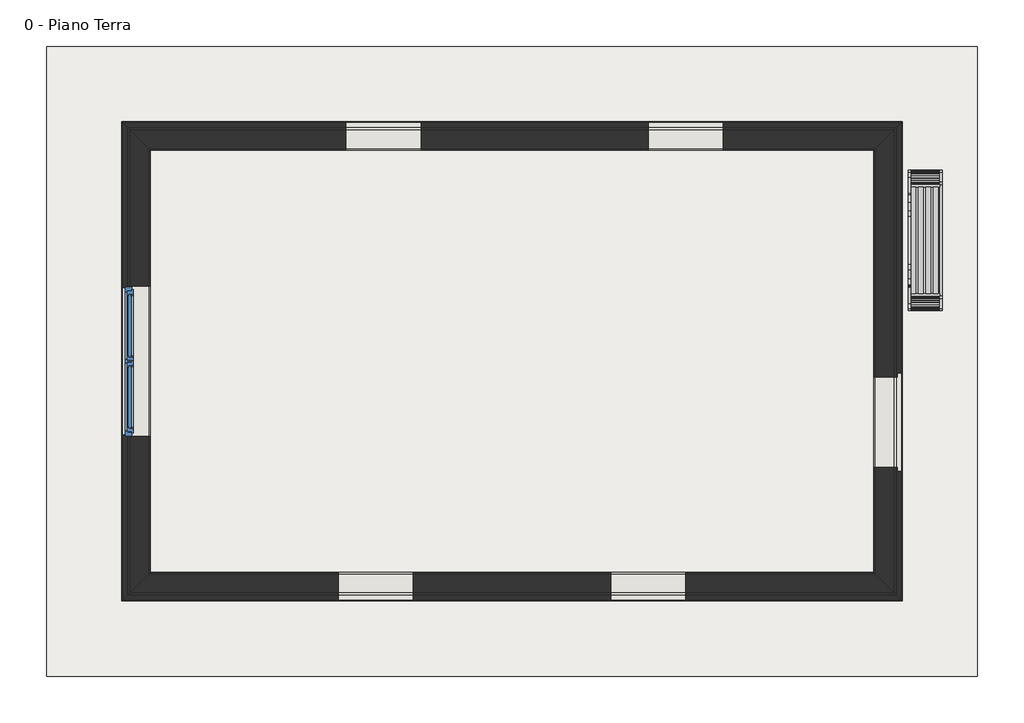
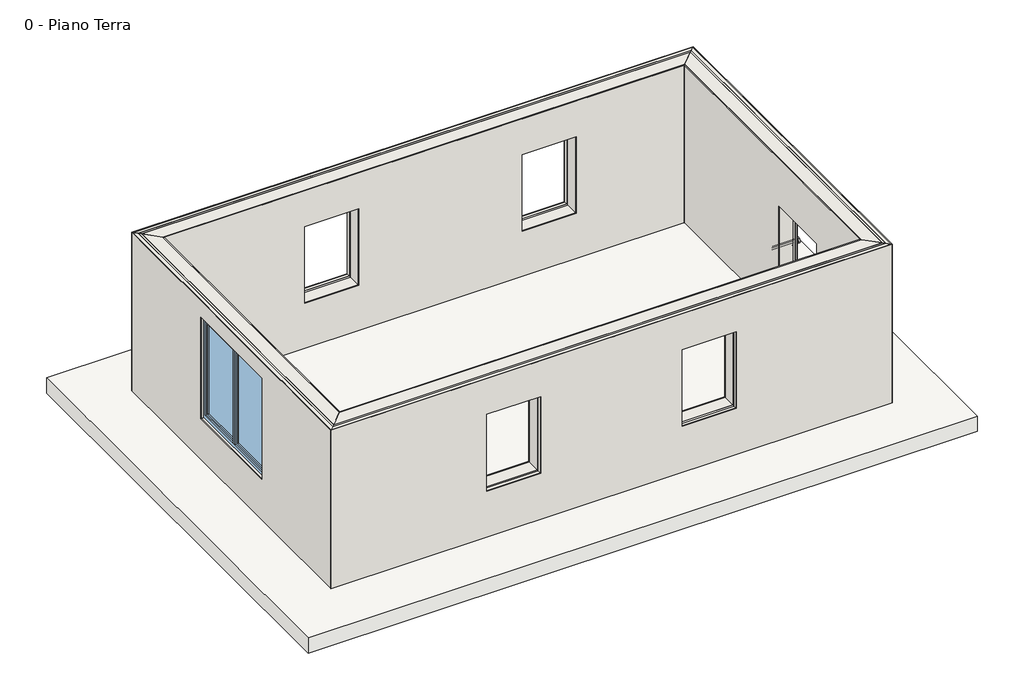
# One storey, incomplete: 4 walls, 2 slabs, 1 furniture element, 1 window.
"""IFC4 building model written with IfcOpenShell, lengths in millimetres."""

from ifc_helpers import new_model, si_unit, frame, origin, origin_with_axes, place, context, project, spatial, polyline, outline, extrude, faceted_brep, transform, mapped, element, save
from components import panchina_1_panchina_1_e30cd0fb, type_1_1d15f25d

model = new_model("IFC4")

# Units and contexts
model_context = context("Model", 3, world=origin())
ifc_project = project(units=[si_unit("LENGTHUNIT", "METRE", prefix="MILLI")], contexts=[model_context])

# Site, building, storey
site = spatial("IfcSite", under=ifc_project)
building = spatial("IfcBuilding", under=site)
storey = spatial("IfcBuildingStorey", under=building, Name="0 - Piano Terra", Elevation=0.0)

# Furniture
placement = place(None, origin())
panchina_1_panchina_1_shape = panchina_1_panchina_1_e30cd0fb(model_context)
element("IfcFurniture", 1, ObjectType="Panchina (1) : Panchina (1)", at=placement, inside=storey, context=model_context, shape_type="MappedRepresentation", body=[
    mapped(panchina_1_panchina_1_shape, transform((7054.6934329, 871.7316161, 0.0), x_axis=(0.0, 1.0, 0.0), y_axis=(-1.0, 0.0, 0.0), z_axis=(0.0, 0.0, 1.0))),
])

# Slabs
element("IfcSlab", 2, ObjectType="Latero Cementizio - 30 cm", at=placement, inside=storey, context=model_context, shape_type="SweptSolid", body=[
    extrude(outline(polyline([(7554.6934329, 3451.7316161), (7554.6934329, -4928.2683839), (-4825.3065671, -4928.2683839), (-4825.3065671, 3451.7316161), (7554.6934329, 3451.7316161)])), frame((0.0, 0.0, -300.0), z_axis=(0.0, 0.0, 1.0), x_axis=(1.0, 0.0, 0.0)), (0.0, 0.0, 1.0), 300.0),
])
element("IfcSlab", 3, ObjectType="Piastrelle (2 cm)", at=placement, inside=storey, context=model_context, shape_type="SweptSolid", body=[
    extrude(outline(polyline([(6174.6934329, 2071.7316161), (6174.6934329, -3548.2683839), (-3445.3065671, -3548.2683839), (-3445.3065671, 2071.7316161), (6174.6934329, 2071.7316161)])), origin_with_axes(), (0.0, 0.0, 1.0), 20.0),
])

# Walls
element("IfcWall", 4, ObjectType="Tamponamento Esterno - 38 cm", at=placement, inside=storey, context=model_context, shape_type="Brep", body=[
    faceted_brep([(6189.6934329, 2086.7316161, 0.0), (-3460.3065671, 2086.7316161, 0.0), (-3460.3065671, 2086.7316161, 3100.0), (6189.6934329, 2086.7316161, 3100.0), (4174.6934329, 2086.7316161, 900.0), (4174.6934329, 2086.7316161, 2400.0), (3174.6934329, 2086.7316161, 2400.0), (3174.6934329, 2086.7316161, 900.0), (-845.0439726, 2086.7316161, 2400.0), (-845.0439726, 2086.7316161, 900.0), (154.9560274, 2086.7316161, 900.0), (154.9560274, 2086.7316161, 2400.0), (6174.6934329, 2071.7316161, 0.0), (-3445.3065671, 2071.7316161, 0.0), (-3445.3065671, 2071.7316161, 3100.0), (6174.6934329, 2071.7316161, 3100.0), (4174.6934329, 2071.7316161, 2400.0), (4174.6934329, 2071.7316161, 900.0), (3174.6934329, 2071.7316161, 900.0), (3174.6934329, 2071.7316161, 2400.0), (-845.0439726, 2071.7316161, 900.0), (-845.0439726, 2071.7316161, 2400.0), (154.9560274, 2071.7316161, 2400.0), (154.9560274, 2071.7316161, 900.0)], [[[0, 1, 2, 3], [4, 5, 6, 7], [8, 9, 10, 11]], [[12, 13, 1, 0]], [[14, 15, 3, 2]], [[15, 12, 0, 3]], [[13, 14, 2, 1]], [[13, 12, 15, 14], [16, 17, 18, 19], [20, 21, 22, 23]], [[21, 20, 9, 8]], [[22, 21, 8, 11]], [[23, 22, 11, 10]], [[20, 23, 10, 9]], [[17, 16, 5, 4]], [[16, 19, 6, 5]], [[19, 18, 7, 6]], [[18, 17, 4, 7]]]),
    faceted_brep([(-3460.3065671, 2086.7316161, 0.0), (6189.6934329, 2086.7316161, 0.0), (6189.6934329, 2086.7316161, 3100.0), (-3460.3065671, 2086.7316161, 3100.0), (4174.6934329, 2086.7316161, 2400.0), (4174.6934329, 2086.7316161, 900.0), (3174.6934329, 2086.7316161, 900.0), (3174.6934329, 2086.7316161, 2400.0), (-845.0439726, 2086.7316161, 900.0), (-845.0439726, 2086.7316161, 2400.0), (154.9560274, 2086.7316161, 2400.0), (154.9560274, 2086.7316161, 900.0), (6439.6934329, 2336.7316161, 0.0), (-3710.3065671, 2336.7316161, 0.0), (-3710.3065671, 2336.7316161, 3100.0), (6439.6934329, 2336.7316161, 3100.0), (4174.6934329, 2336.7316161, 900.0), (4174.6934329, 2336.7316161, 2400.0), (3174.6934329, 2336.7316161, 2400.0), (3174.6934329, 2336.7316161, 900.0), (-845.0439726, 2336.7316161, 2400.0), (-845.0439726, 2336.7316161, 900.0), (154.9560274, 2336.7316161, 900.0), (154.9560274, 2336.7316161, 2400.0)], [[[0, 1, 2, 3], [4, 5, 6, 7], [8, 9, 10, 11]], [[12, 13, 14, 15], [16, 17, 18, 19], [20, 21, 22, 23]], [[0, 13, 12, 1]], [[2, 15, 14, 3]], [[1, 12, 15, 2]], [[13, 0, 3, 14]], [[8, 21, 20, 9]], [[9, 20, 23, 10]], [[10, 23, 22, 11]], [[21, 8, 11, 22]], [[16, 5, 4, 17]], [[17, 4, 7, 18]], [[18, 7, 6, 19]], [[5, 16, 19, 6]]]),
    faceted_brep([(6539.6934329, 2436.7316161, 0.0), (-3810.3065671, 2436.7316161, 0.0), (-3810.3065671, 2436.7316161, 3100.0), (6539.6934329, 2436.7316161, 3100.0), (4174.6934329, 2436.7316161, 900.0), (4174.6934329, 2436.7316161, 2400.0), (3174.6934329, 2436.7316161, 2400.0), (3174.6934329, 2436.7316161, 900.0), (-845.0439726, 2436.7316161, 2400.0), (-845.0439726, 2436.7316161, 900.0), (154.9560274, 2436.7316161, 900.0), (154.9560274, 2436.7316161, 2400.0), (-3750.3065671, 2376.7316161, 0.0), (6479.6934329, 2376.7316161, 0.0), (6479.6934329, 2376.7316161, 3100.0), (-3750.3065671, 2376.7316161, 3100.0), (4174.6934329, 2376.7316161, 2400.0), (4174.6934329, 2376.7316161, 900.0), (3174.6934329, 2376.7316161, 900.0), (3174.6934329, 2376.7316161, 2400.0), (-845.0439726, 2376.7316161, 900.0), (-845.0439726, 2376.7316161, 2400.0), (154.9560274, 2376.7316161, 2400.0), (154.9560274, 2376.7316161, 900.0)], [[[0, 1, 2, 3], [4, 5, 6, 7], [8, 9, 10, 11]], [[12, 13, 14, 15], [16, 17, 18, 19], [20, 21, 22, 23]], [[12, 1, 0, 13]], [[14, 3, 2, 15]], [[13, 0, 3, 14]], [[1, 12, 15, 2]], [[20, 9, 8, 21]], [[21, 8, 11, 22]], [[22, 11, 10, 23]], [[9, 20, 23, 10]], [[4, 17, 16, 5]], [[5, 16, 19, 6]], [[6, 19, 18, 7]], [[17, 4, 7, 18]]]),
    faceted_brep([(-3810.3065671, 2436.7316161, 0.0), (6539.6934329, 2436.7316161, 0.0), (6539.6934329, 2436.7316161, 3100.0), (-3810.3065671, 2436.7316161, 3100.0), (4174.6934329, 2436.7316161, 2400.0), (4174.6934329, 2436.7316161, 900.0), (3174.6934329, 2436.7316161, 900.0), (3174.6934329, 2436.7316161, 2400.0), (-845.0439726, 2436.7316161, 900.0), (-845.0439726, 2436.7316161, 2400.0), (154.9560274, 2436.7316161, 2400.0), (154.9560274, 2436.7316161, 900.0), (-3825.3065671, 2451.7316161, 0.0), (6554.6934329, 2451.7316161, 0.0), (6554.6934329, 2451.7316161, 3100.0), (-3825.3065671, 2451.7316161, 3100.0), (4174.6934329, 2451.7316161, 900.0), (4174.6934329, 2451.7316161, 2400.0), (3174.6934329, 2451.7316161, 2400.0), (3174.6934329, 2451.7316161, 900.0), (-845.0439726, 2451.7316161, 2400.0), (-845.0439726, 2451.7316161, 900.0), (154.9560274, 2451.7316161, 900.0), (154.9560274, 2451.7316161, 2400.0)], [[[0, 1, 2, 3], [4, 5, 6, 7], [8, 9, 10, 11]], [[12, 13, 1, 0]], [[14, 15, 3, 2]], [[13, 14, 2, 1]], [[15, 12, 0, 3]], [[13, 12, 15, 14], [16, 17, 18, 19], [20, 21, 22, 23]], [[21, 20, 9, 8]], [[20, 23, 10, 9]], [[23, 22, 11, 10]], [[22, 21, 8, 11]], [[17, 16, 5, 4]], [[18, 17, 4, 7]], [[19, 18, 7, 6]], [[16, 19, 6, 5]]]),
    faceted_brep([(6479.6934329, 2376.7316161, 0.0), (-3750.3065671, 2376.7316161, 0.0), (-3750.3065671, 2376.7316161, 3100.0), (6479.6934329, 2376.7316161, 3100.0), (4174.6934329, 2376.7316161, 900.0), (4174.6934329, 2376.7316161, 2400.0), (3174.6934329, 2376.7316161, 2400.0), (3174.6934329, 2376.7316161, 900.0), (-845.0439726, 2376.7316161, 2400.0), (-845.0439726, 2376.7316161, 900.0), (154.9560274, 2376.7316161, 900.0), (154.9560274, 2376.7316161, 2400.0), (-3710.3065671, 2336.7316161, 0.0), (6439.6934329, 2336.7316161, 0.0), (6439.6934329, 2336.7316161, 3100.0), (-3710.3065671, 2336.7316161, 3100.0), (4174.6934329, 2336.7316161, 2400.0), (4174.6934329, 2336.7316161, 900.0), (3174.6934329, 2336.7316161, 900.0), (3174.6934329, 2336.7316161, 2400.0), (-845.0439726, 2336.7316161, 900.0), (-845.0439726, 2336.7316161, 2400.0), (154.9560274, 2336.7316161, 2400.0), (154.9560274, 2336.7316161, 900.0)], [[[0, 1, 2, 3], [4, 5, 6, 7], [8, 9, 10, 11]], [[12, 13, 14, 15], [16, 17, 18, 19], [20, 21, 22, 23]], [[12, 1, 0, 13]], [[14, 3, 2, 15]], [[13, 0, 3, 14]], [[1, 12, 15, 2]], [[20, 9, 8, 21]], [[21, 8, 11, 22]], [[22, 11, 10, 23]], [[9, 20, 23, 10]], [[4, 17, 16, 5]], [[5, 16, 19, 6]], [[6, 19, 18, 7]], [[17, 4, 7, 18]]]),
])
element("IfcWall", 5, ObjectType="Tamponamento Esterno - 38 cm", at=placement, inside=storey, context=model_context, shape_type="Brep", body=[
    faceted_brep([(6189.6934329, -3563.2683839, 0.0), (6189.6934329, 2086.7316161, 0.0), (6189.6934329, 2086.7316161, 3100.0), (6189.6934329, -3563.2683839, 3100.0), (6189.6934329, -2148.2683839, 2170.0), (6189.6934329, -948.2683839, 2170.0), (6189.6934329, -948.2683839, 20.0), (6189.6934329, -2148.2683839, 20.0), (6174.6934329, -3548.2683839, 0.0), (6174.6934329, 2071.7316161, 0.0), (6174.6934329, 2071.7316161, 3100.0), (6174.6934329, -3548.2683839, 3100.0), (6174.6934329, -2148.2683839, 2170.0), (6174.6934329, -948.2683839, 2170.0), (6174.6934329, -2148.2683839, 20.0), (6174.6934329, -948.2683839, 20.0)], [[[0, 1, 2, 3], [4, 5, 6, 7]], [[8, 9, 1, 0]], [[10, 11, 3, 2]], [[9, 10, 2, 1]], [[11, 8, 0, 3]], [[12, 13, 5, 4]], [[14, 12, 4, 7]], [[13, 15, 6, 5]], [[9, 8, 11, 10], [13, 12, 14, 15]], [[15, 14, 7, 6]]]),
    faceted_brep([(6189.6934329, 2086.7316161, 0.0), (6189.6934329, -3563.2683839, 0.0), (6189.6934329, -3563.2683839, 3100.0), (6189.6934329, 2086.7316161, 3100.0), (6189.6934329, -948.2683839, 2170.0), (6189.6934329, -2148.2683839, 2170.0), (6189.6934329, -2148.2683839, 20.0), (6189.6934329, -948.2683839, 20.0), (6439.6934329, -3813.2683839, 0.0), (6439.6934329, 2336.7316161, 0.0), (6439.6934329, 2336.7316161, 3100.0), (6439.6934329, -3813.2683839, 3100.0), (6439.6934329, -2148.2683839, 2170.0), (6439.6934329, -948.2683839, 2170.0), (6439.6934329, -948.2683839, 20.0), (6439.6934329, -2148.2683839, 20.0)], [[[0, 1, 2, 3], [4, 5, 6, 7]], [[8, 9, 10, 11], [12, 13, 14, 15]], [[0, 9, 8, 1]], [[2, 11, 10, 3]], [[9, 0, 3, 10]], [[1, 8, 11, 2]], [[4, 13, 12, 5]], [[5, 12, 15, 6]], [[13, 4, 7, 14]], [[6, 15, 14, 7]]]),
    faceted_brep([(6539.6934329, -3913.2683839, 0.0), (6539.6934329, 2436.7316161, 0.0), (6539.6934329, 2436.7316161, 3100.0), (6539.6934329, -3913.2683839, 3100.0), (6539.6934329, -891.5476185, 20.0), (6539.6934329, -2204.9891493, 20.0), (6539.6934329, -2204.9891493, 2226.7207654), (6539.6934329, -891.5476185, 2226.7207654), (6479.6934329, 2376.7316161, 0.0), (6479.6934329, -3853.2683839, 0.0), (6479.6934329, -3853.2683839, 3100.0), (6479.6934329, 2376.7316161, 3100.0), (6479.6934329, -948.2683839, 2170.0), (6479.6934329, -2148.2683839, 2170.0), (6479.6934329, -2148.2683839, 20.0), (6479.6934329, -948.2683839, 20.0), (6486.6933037, -948.2683839, 2170.0), (6486.6933037, -2148.2683839, 2170.0), (6486.6933037, -2148.2683839, 20.0), (6486.6933037, -948.2683839, 20.0), (6486.6933037, -2204.9891493, 20.0), (6486.6933037, -2204.9891493, 2226.7207654), (6486.6933037, -891.5476185, 2226.7207654), (6486.6933037, -891.5476185, 20.0)], [[[0, 1, 2, 3], [4, 5, 6, 7]], [[8, 9, 10, 11], [12, 13, 14, 15]], [[8, 1, 0, 9]], [[10, 3, 2, 11]], [[1, 8, 11, 2]], [[9, 0, 3, 10]], [[16, 17, 13, 12]], [[17, 18, 14, 13]], [[19, 16, 12, 15]], [[20, 21, 6, 5]], [[21, 22, 7, 6]], [[22, 23, 4, 7]], [[17, 16, 19, 23, 22, 21, 20, 18]], [[18, 20, 5, 4, 23, 19, 15, 14]]]),
    faceted_brep([(6539.6934329, 2436.7316161, 0.0), (6539.6934329, -3913.2683839, 0.0), (6539.6934329, -3913.2683839, 3100.0), (6539.6934329, 2436.7316161, 3100.0), (6539.6934329, -2204.9891493, 20.0), (6539.6934329, -891.5476185, 20.0), (6539.6934329, -891.5476185, 2226.7207654), (6539.6934329, -2204.9891493, 2226.7207654), (6554.6934329, 2451.7316161, 0.0), (6554.6934329, -3928.2683839, 0.0), (6554.6934329, -3928.2683839, 3100.0), (6554.6934329, 2451.7316161, 3100.0), (6554.6934329, -891.5476185, 20.0), (6554.6934329, -2204.9891493, 20.0), (6554.6934329, -2204.9891493, 2226.7207654), (6554.6934329, -891.5476185, 2226.7207654)], [[[0, 1, 2, 3], [4, 5, 6, 7]], [[8, 9, 1, 0]], [[10, 11, 3, 2]], [[11, 8, 0, 3]], [[9, 10, 2, 1]], [[9, 8, 11, 10], [12, 13, 14, 15]], [[14, 13, 4, 7]], [[15, 14, 7, 6]], [[12, 15, 6, 5]], [[13, 12, 5, 4]]]),
    faceted_brep([(6479.6934329, -3853.2683839, 0.0), (6479.6934329, 2376.7316161, 0.0), (6479.6934329, 2376.7316161, 3100.0), (6479.6934329, -3853.2683839, 3100.0), (6479.6934329, -2148.2683839, 2170.0), (6479.6934329, -948.2683839, 2170.0), (6479.6934329, -948.2683839, 20.0), (6479.6934329, -2148.2683839, 20.0), (6439.6934329, 2336.7316161, 0.0), (6439.6934329, -3813.2683839, 0.0), (6439.6934329, -3813.2683839, 3100.0), (6439.6934329, 2336.7316161, 3100.0), (6439.6934329, -948.2683839, 2170.0), (6439.6934329, -2148.2683839, 2170.0), (6439.6934329, -2148.2683839, 20.0), (6439.6934329, -948.2683839, 20.0)], [[[0, 1, 2, 3], [4, 5, 6, 7]], [[8, 9, 10, 11], [12, 13, 14, 15]], [[8, 1, 0, 9]], [[10, 3, 2, 11]], [[1, 8, 11, 2]], [[9, 0, 3, 10]], [[12, 5, 4, 13]], [[13, 4, 7, 14]], [[5, 12, 15, 6]], [[14, 7, 6, 15]]]),
])
element("IfcWall", 6, ObjectType="Tamponamento Esterno - 38 cm", at=placement, inside=storey, context=model_context, shape_type="Brep", body=[
    faceted_brep([(-3460.3065671, -3563.2683839, 0.0), (6189.6934329, -3563.2683839, 0.0), (6189.6934329, -3563.2683839, 3100.0), (-3460.3065671, -3563.2683839, 3100.0), (54.6934329, -3563.2683839, 2400.0), (54.6934329, -3563.2683839, 900.0), (-945.3065671, -3563.2683839, 900.0), (-945.3065671, -3563.2683839, 2400.0), (2674.6934329, -3563.2683839, 900.0), (2674.6934329, -3563.2683839, 2400.0), (3674.6934329, -3563.2683839, 2400.0), (3674.6934329, -3563.2683839, 900.0), (-3445.3065671, -3548.2683839, 0.0), (6174.6934329, -3548.2683839, 0.0), (6174.6934329, -3548.2683839, 3100.0), (-3445.3065671, -3548.2683839, 3100.0), (54.6934329, -3548.2683839, 900.0), (54.6934329, -3548.2683839, 2400.0), (-945.3065671, -3548.2683839, 2400.0), (-945.3065671, -3548.2683839, 900.0), (2674.6934329, -3548.2683839, 2400.0), (2674.6934329, -3548.2683839, 900.0), (3674.6934329, -3548.2683839, 900.0), (3674.6934329, -3548.2683839, 2400.0)], [[[0, 1, 2, 3], [4, 5, 6, 7], [8, 9, 10, 11]], [[12, 13, 1, 0]], [[14, 15, 3, 2]], [[13, 14, 2, 1]], [[15, 12, 0, 3]], [[13, 12, 15, 14], [16, 17, 18, 19], [20, 21, 22, 23]], [[21, 20, 9, 8]], [[20, 23, 10, 9]], [[23, 22, 11, 10]], [[22, 21, 8, 11]], [[17, 16, 5, 4]], [[18, 17, 4, 7]], [[19, 18, 7, 6]], [[16, 19, 6, 5]]]),
    faceted_brep([(6189.6934329, -3563.2683839, 0.0), (-3460.3065671, -3563.2683839, 0.0), (-3460.3065671, -3563.2683839, 3100.0), (6189.6934329, -3563.2683839, 3100.0), (54.6934329, -3563.2683839, 900.0), (54.6934329, -3563.2683839, 2400.0), (-945.3065671, -3563.2683839, 2400.0), (-945.3065671, -3563.2683839, 900.0), (2674.6934329, -3563.2683839, 2400.0), (2674.6934329, -3563.2683839, 900.0), (3674.6934329, -3563.2683839, 900.0), (3674.6934329, -3563.2683839, 2400.0), (-3710.3065671, -3813.2683839, 0.0), (6439.6934329, -3813.2683839, 0.0), (6439.6934329, -3813.2683839, 3100.0), (-3710.3065671, -3813.2683839, 3100.0), (54.6934329, -3813.2683839, 2400.0), (54.6934329, -3813.2683839, 900.0), (-945.3065671, -3813.2683839, 900.0), (-945.3065671, -3813.2683839, 2400.0), (2674.6934329, -3813.2683839, 900.0), (2674.6934329, -3813.2683839, 2400.0), (3674.6934329, -3813.2683839, 2400.0), (3674.6934329, -3813.2683839, 900.0)], [[[0, 1, 2, 3], [4, 5, 6, 7], [8, 9, 10, 11]], [[12, 13, 14, 15], [16, 17, 18, 19], [20, 21, 22, 23]], [[0, 13, 12, 1]], [[2, 15, 14, 3]], [[13, 0, 3, 14]], [[1, 12, 15, 2]], [[20, 9, 8, 21]], [[21, 8, 11, 22]], [[22, 11, 10, 23]], [[9, 20, 23, 10]], [[4, 17, 16, 5]], [[5, 16, 19, 6]], [[6, 19, 18, 7]], [[17, 4, 7, 18]]]),
    faceted_brep([(-3810.3065671, -3913.2683839, 0.0), (6539.6934329, -3913.2683839, 0.0), (6539.6934329, -3913.2683839, 3100.0), (-3810.3065671, -3913.2683839, 3100.0), (54.6934329, -3913.2683839, 2400.0), (54.6934329, -3913.2683839, 900.0), (-945.3065671, -3913.2683839, 900.0), (-945.3065671, -3913.2683839, 2400.0), (2674.6934329, -3913.2683839, 900.0), (2674.6934329, -3913.2683839, 2400.0), (3674.6934329, -3913.2683839, 2400.0), (3674.6934329, -3913.2683839, 900.0), (6479.6934329, -3853.2683839, 0.0), (-3750.3065671, -3853.2683839, 0.0), (-3750.3065671, -3853.2683839, 3100.0), (6479.6934329, -3853.2683839, 3100.0), (54.6934329, -3853.2683839, 900.0), (54.6934329, -3853.2683839, 2400.0), (-945.3065671, -3853.2683839, 2400.0), (-945.3065671, -3853.2683839, 900.0), (2674.6934329, -3853.2683839, 2400.0), (2674.6934329, -3853.2683839, 900.0), (3674.6934329, -3853.2683839, 900.0), (3674.6934329, -3853.2683839, 2400.0)], [[[0, 1, 2, 3], [4, 5, 6, 7], [8, 9, 10, 11]], [[12, 13, 14, 15], [16, 17, 18, 19], [20, 21, 22, 23]], [[12, 1, 0, 13]], [[14, 3, 2, 15]], [[1, 12, 15, 2]], [[13, 0, 3, 14]], [[8, 21, 20, 9]], [[9, 20, 23, 10]], [[10, 23, 22, 11]], [[21, 8, 11, 22]], [[16, 5, 4, 17]], [[17, 4, 7, 18]], [[18, 7, 6, 19]], [[5, 16, 19, 6]]]),
    faceted_brep([(6539.6934329, -3913.2683839, 0.0), (-3810.3065671, -3913.2683839, 0.0), (-3810.3065671, -3913.2683839, 3100.0), (6539.6934329, -3913.2683839, 3100.0), (54.6934329, -3913.2683839, 900.0), (54.6934329, -3913.2683839, 2400.0), (-945.3065671, -3913.2683839, 2400.0), (-945.3065671, -3913.2683839, 900.0), (2674.6934329, -3913.2683839, 2400.0), (2674.6934329, -3913.2683839, 900.0), (3674.6934329, -3913.2683839, 900.0), (3674.6934329, -3913.2683839, 2400.0), (6554.6934329, -3928.2683839, 0.0), (-3825.3065671, -3928.2683839, 0.0), (-3825.3065671, -3928.2683839, 3100.0), (6554.6934329, -3928.2683839, 3100.0), (54.6934329, -3928.2683839, 2400.0), (54.6934329, -3928.2683839, 900.0), (-945.3065671, -3928.2683839, 900.0), (-945.3065671, -3928.2683839, 2400.0), (2674.6934329, -3928.2683839, 900.0), (2674.6934329, -3928.2683839, 2400.0), (3674.6934329, -3928.2683839, 2400.0), (3674.6934329, -3928.2683839, 900.0)], [[[0, 1, 2, 3], [4, 5, 6, 7], [8, 9, 10, 11]], [[12, 13, 1, 0]], [[14, 15, 3, 2]], [[15, 12, 0, 3]], [[13, 14, 2, 1]], [[13, 12, 15, 14], [16, 17, 18, 19], [20, 21, 22, 23]], [[21, 20, 9, 8]], [[22, 21, 8, 11]], [[23, 22, 11, 10]], [[20, 23, 10, 9]], [[17, 16, 5, 4]], [[16, 19, 6, 5]], [[19, 18, 7, 6]], [[18, 17, 4, 7]]]),
    faceted_brep([(-3750.3065671, -3853.2683839, 0.0), (6479.6934329, -3853.2683839, 0.0), (6479.6934329, -3853.2683839, 3100.0), (-3750.3065671, -3853.2683839, 3100.0), (54.6934329, -3853.2683839, 2400.0), (54.6934329, -3853.2683839, 900.0), (-945.3065671, -3853.2683839, 900.0), (-945.3065671, -3853.2683839, 2400.0), (2674.6934329, -3853.2683839, 900.0), (2674.6934329, -3853.2683839, 2400.0), (3674.6934329, -3853.2683839, 2400.0), (3674.6934329, -3853.2683839, 900.0), (6439.6934329, -3813.2683839, 0.0), (-3710.3065671, -3813.2683839, 0.0), (-3710.3065671, -3813.2683839, 3100.0), (6439.6934329, -3813.2683839, 3100.0), (54.6934329, -3813.2683839, 900.0), (54.6934329, -3813.2683839, 2400.0), (-945.3065671, -3813.2683839, 2400.0), (-945.3065671, -3813.2683839, 900.0), (2674.6934329, -3813.2683839, 2400.0), (2674.6934329, -3813.2683839, 900.0), (3674.6934329, -3813.2683839, 900.0), (3674.6934329, -3813.2683839, 2400.0)], [[[0, 1, 2, 3], [4, 5, 6, 7], [8, 9, 10, 11]], [[12, 13, 14, 15], [16, 17, 18, 19], [20, 21, 22, 23]], [[12, 1, 0, 13]], [[14, 3, 2, 15]], [[1, 12, 15, 2]], [[13, 0, 3, 14]], [[8, 21, 20, 9]], [[9, 20, 23, 10]], [[10, 23, 22, 11]], [[21, 8, 11, 22]], [[16, 5, 4, 17]], [[17, 4, 7, 18]], [[18, 7, 6, 19]], [[5, 16, 19, 6]]]),
])
element("IfcWall", 7, ObjectType="Tamponamento Esterno - 38 cm", at=placement, inside=storey, context=model_context, shape_type="Brep", body=[
    faceted_brep([(-3460.3065671, 2086.7316161, 0.0), (-3460.3065671, -3563.2683839, 0.0), (-3460.3065671, -3563.2683839, 3100.0), (-3460.3065671, 2086.7316161, 3100.0), (-3460.3065671, 261.7316161, 2800.0), (-3460.3065671, -1738.2683839, 2800.0), (-3460.3065671, -1738.2683839, 800.0), (-3460.3065671, 261.7316161, 800.0), (-3445.3065671, 2071.7316161, 0.0), (-3445.3065671, -3548.2683839, 0.0), (-3445.3065671, -3548.2683839, 3100.0), (-3445.3065671, 2071.7316161, 3100.0), (-3445.3065671, -1738.2683839, 2800.0), (-3445.3065671, 261.7316161, 2800.0), (-3445.3065671, 261.7316161, 800.0), (-3445.3065671, -1738.2683839, 800.0)], [[[0, 1, 2, 3], [4, 5, 6, 7]], [[8, 9, 1, 0]], [[10, 11, 3, 2]], [[11, 8, 0, 3]], [[9, 10, 2, 1]], [[9, 8, 11, 10], [12, 13, 14, 15]], [[13, 12, 5, 4]], [[14, 13, 4, 7]], [[15, 14, 7, 6]], [[12, 15, 6, 5]]]),
    faceted_brep([(-3460.3065671, -3563.2683839, 0.0), (-3460.3065671, 2086.7316161, 0.0), (-3460.3065671, 2086.7316161, 3100.0), (-3460.3065671, -3563.2683839, 3100.0), (-3460.3065671, -1738.2683839, 2800.0), (-3460.3065671, 261.7316161, 2800.0), (-3460.3065671, 261.7316161, 800.0), (-3460.3065671, -1738.2683839, 800.0), (-3710.3065671, 2336.7316161, 0.0), (-3710.3065671, -3813.2683839, 0.0), (-3710.3065671, -3813.2683839, 3100.0), (-3710.3065671, 2336.7316161, 3100.0), (-3710.3065671, 261.7316161, 2800.0), (-3710.3065671, -1738.2683839, 2800.0), (-3710.3065671, -1738.2683839, 800.0), (-3710.3065671, 261.7316161, 800.0)], [[[0, 1, 2, 3], [4, 5, 6, 7]], [[8, 9, 10, 11], [12, 13, 14, 15]], [[0, 9, 8, 1]], [[2, 11, 10, 3]], [[1, 8, 11, 2]], [[9, 0, 3, 10]], [[4, 13, 12, 5]], [[5, 12, 15, 6]], [[6, 15, 14, 7]], [[13, 4, 7, 14]]]),
    faceted_brep([(-3810.3065671, 2436.7316161, 0.0), (-3810.3065671, -3913.2683839, 0.0), (-3810.3065671, -3913.2683839, 3100.0), (-3810.3065671, 2436.7316161, 3100.0), (-3810.3065671, -1718.2683839, 800.0), (-3810.3065671, 241.7316161, 800.0), (-3810.3065671, 241.7316161, 2780.0), (-3810.3065671, -1718.2683839, 2780.0), (-3750.3065671, -3853.2683839, 0.0), (-3750.3065671, 2376.7316161, 0.0), (-3750.3065671, 2376.7316161, 3100.0), (-3750.3065671, -3853.2683839, 3100.0), (-3750.3065671, -1738.2683839, 2800.0), (-3750.3065671, 261.7316161, 2800.0), (-3750.3065671, 261.7316161, 800.0), (-3750.3065671, -1738.2683839, 800.0), (-3775.3065671, -1738.2683839, 2800.0), (-3775.3065671, 261.7316161, 2800.0), (-3775.3065671, 261.7316161, 800.0), (-3775.3065671, -1718.2683839, 800.0), (-3775.3065671, -1738.2683839, 800.0), (-3775.3065671, 241.7316161, 800.0), (-3775.3065671, 241.7316161, 2780.0), (-3775.3065671, -1718.2683839, 2780.0), (-3775.3065671, 241.7316161, 810.0), (-3775.3065671, -1718.2683839, 810.0)], [[[0, 1, 2, 3], [4, 5, 6, 7]], [[8, 9, 10, 11], [12, 13, 14, 15]], [[8, 1, 0, 9]], [[10, 3, 2, 11]], [[9, 0, 3, 10]], [[1, 8, 11, 2]], [[16, 17, 13, 12]], [[17, 18, 14, 13]], [[19, 20, 15, 14, 18, 21, 5, 4]], [[20, 16, 12, 15]], [[22, 23, 7, 6]], [[24, 22, 6, 5, 21]], [[25, 19, 4, 7, 23]], [[16, 20, 19, 25, 23, 22, 24, 21, 18, 17]]]),
    faceted_brep([(-3810.3065671, -3913.2683839, 0.0), (-3810.3065671, 2436.7316161, 0.0), (-3810.3065671, 2436.7316161, 3100.0), (-3810.3065671, -3913.2683839, 3100.0), (-3810.3065671, 241.7316161, 800.0), (-3810.3065671, -1718.2683839, 800.0), (-3810.3065671, -1718.2683839, 2780.0), (-3810.3065671, 241.7316161, 2780.0), (-3825.3065671, -3928.2683839, 0.0), (-3825.3065671, 2451.7316161, 0.0), (-3825.3065671, 2451.7316161, 3100.0), (-3825.3065671, -3928.2683839, 3100.0), (-3825.3065671, -1718.2683839, 800.0), (-3825.3065671, 241.7316161, 800.0), (-3825.3065671, 241.7316161, 2780.0), (-3825.3065671, -1718.2683839, 2780.0)], [[[0, 1, 2, 3], [4, 5, 6, 7]], [[8, 9, 1, 0]], [[10, 11, 3, 2]], [[9, 10, 2, 1]], [[11, 8, 0, 3]], [[9, 8, 11, 10], [12, 13, 14, 15]], [[13, 12, 5, 4]], [[15, 14, 7, 6]], [[14, 13, 4, 7]], [[12, 15, 6, 5]]]),
    faceted_brep([(-3750.3065671, 2376.7316161, 0.0), (-3750.3065671, -3853.2683839, 0.0), (-3750.3065671, -3853.2683839, 3100.0), (-3750.3065671, 2376.7316161, 3100.0), (-3750.3065671, 261.7316161, 2800.0), (-3750.3065671, -1738.2683839, 2800.0), (-3750.3065671, -1738.2683839, 800.0), (-3750.3065671, 261.7316161, 800.0), (-3710.3065671, -3813.2683839, 0.0), (-3710.3065671, 2336.7316161, 0.0), (-3710.3065671, 2336.7316161, 3100.0), (-3710.3065671, -3813.2683839, 3100.0), (-3710.3065671, -1738.2683839, 2800.0), (-3710.3065671, 261.7316161, 2800.0), (-3710.3065671, 261.7316161, 800.0), (-3710.3065671, -1738.2683839, 800.0)], [[[0, 1, 2, 3], [4, 5, 6, 7]], [[8, 9, 10, 11], [12, 13, 14, 15]], [[8, 1, 0, 9]], [[10, 3, 2, 11]], [[9, 0, 3, 10]], [[1, 8, 11, 2]], [[12, 5, 4, 13]], [[13, 4, 7, 14]], [[14, 7, 6, 15]], [[5, 12, 15, 6]]]),
])

# Window
type_1_shape = type_1_1d15f25d(model_context)
element("IfcWindow", 8, ObjectType="Schueco_LivIng-82-AS_Window_inw_Family-20 : Type 1", at=placement, inside=storey, context=model_context, shape_type="MappedRepresentation", body=[
    mapped(type_1_shape, transform((-3635.3065671, -738.2683839, 0.0), x_axis=(0.0, 1.0, 0.0), y_axis=(-1.0, 0.0, 0.0), z_axis=(0.0, 0.0, 1.0))),
])

save(model, "model.ifc")
